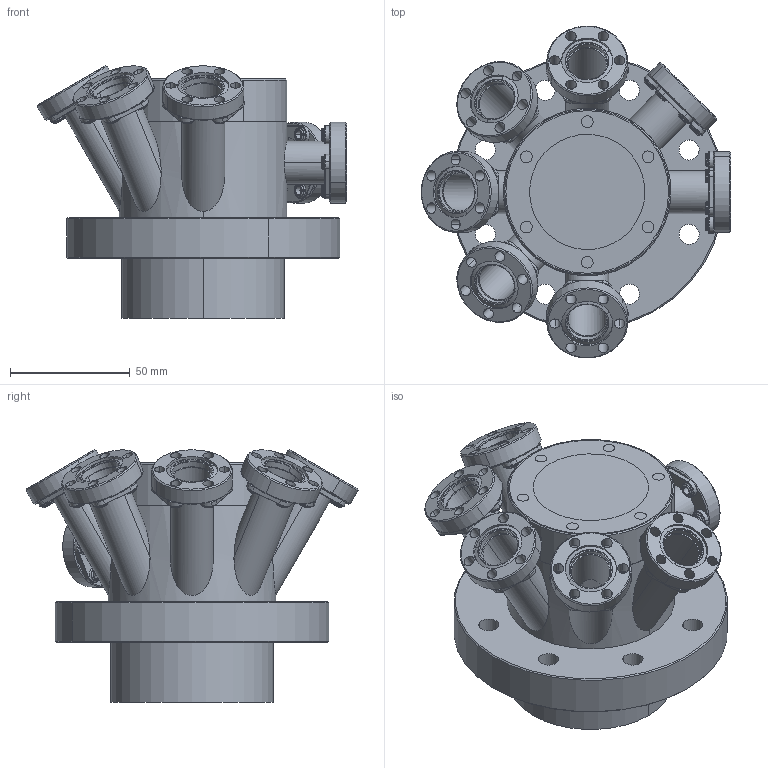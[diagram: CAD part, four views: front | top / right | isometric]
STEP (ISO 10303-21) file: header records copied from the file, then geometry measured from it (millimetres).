
FILE_DESCRIPTION(('Confidential','CAx-IF Rec.Pracs.--- Model Styling and Organization---1.2---2011-12-15'),'2;1');
FILE_NAME('W:\KONSTRUKTION\PRODUCTS\MP\MPCF\MPCF63\MPCF63CF40T2XCF165XCF1630DEG\DOC\MPCF63CF40T2XCF165XCF1630DEG_Rev_C.stp','2025-07-15T13:31:40+00:00',('none'),('Ferrovac AG'),'CATIA Version 5 Release 21 SP 6 (IN-10)','CATIA V5 STEP AP214 Edition 3','PROPERTY OF FERROVAC AG');
FILE_SCHEMA(('AUTOMOTIVE_DESIGN { 1 0 10303 214 3 1 1 1 }'));
Length unit declared in the file: millimetre
Products named in the file (9): MPCF63CF40T2XCF165XCF1630DEG; MPCF63CF40T2XCF165XCF1630DEG_CUTTER; MPCF63CF40T2XCF165XCF1630DEG_p1; 25769; MPCF63CF40T2XCF165XCF1630DEG-p3; MPCF63CF40T2XCF165XCF1630DEG__P4; BOPNCF16; BOPNCF16DUMMY; 39104013
Assembly tree (21 placements, depth 3):
  MPCF63CF40T2XCF165XCF1630DEG
    MPCF63CF40T2XCF165XCF1630DEG_CUTTER
    MPCF63CF40T2XCF165XCF1630DEG_p1
    25769
    MPCF63CF40T2XCF165XCF1630DEG-p3  x5
    MPCF63CF40T2XCF165XCF1630DEG__P4  x2
    BOPNCF16  x7
      BOPNCF16DUMMY
      39104013
Bounding box: 129.38 x 138.76 x 105.46 mm (x, y, z)
Volume: 559037.8 mm3; surface area: 139137.9 mm2
Topology: 39 solids, 39 shells, 1321 faces, 3106 edges, 1875 vertices
Faces by surface type: cylinder 595, torus 441, plane 172, cone 92, bspline 21
Entity records: 9405 total; most frequent: CARTESIAN_POINT 2547, ORIENTED_EDGE 1444, DIRECTION 1108, EDGE_CURVE 722, AXIS2_PLACEMENT_3D 605, VERTEX_POINT 459, CIRCLE 375, EDGE_LOOP 373
